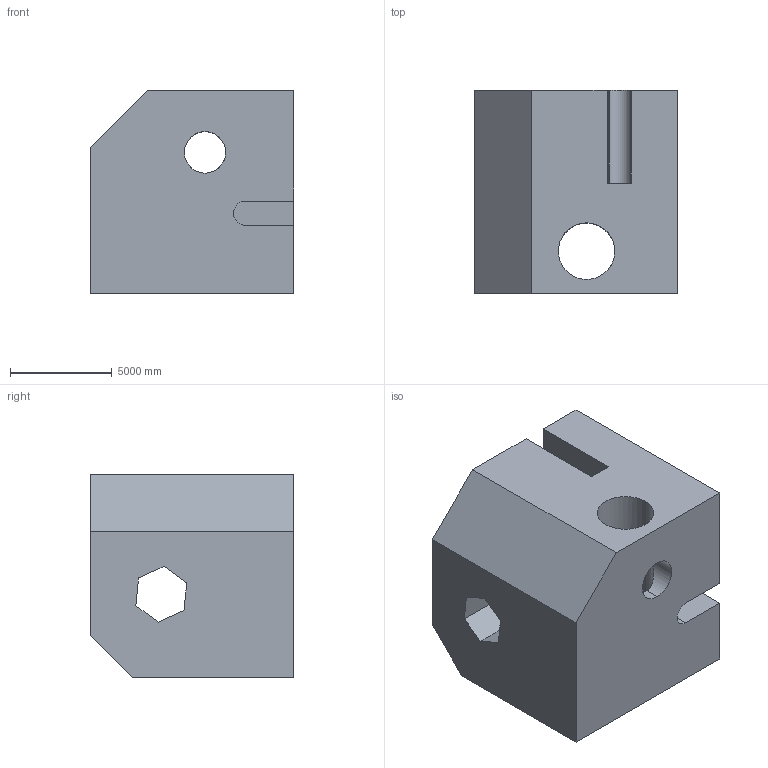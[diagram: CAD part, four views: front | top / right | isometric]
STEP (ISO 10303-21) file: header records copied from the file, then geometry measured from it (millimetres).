
FILE_DESCRIPTION (( 'STEP AP203' ), '1' );
FILE_NAME ('687.STEP', '2022-07-29T12:31:52', ( 'user' ), ( '' ), 'SwSTEP 2.0', 'SolidWorks 2021', '' );
FILE_SCHEMA (( 'CONFIG_CONTROL_DESIGN' ));
Length unit declared in the file: centimetre
Products named in the file (1): 687
Bounding box: 10000 x 10000 x 10000 mm (x, y, z)
Volume: 782301922290.3 mm3; surface area: 776107270.2 mm2
Topology: 1 solids, 1 shells, 29 faces, 84 edges, 56 vertices
Faces by surface type: plane 20, cylinder 9
Entity records: 1674 total; most frequent: CARTESIAN_POINT 805, ORIENTED_EDGE 168, DIRECTION 156, EDGE_CURVE 84, VECTOR 64, LINE 64, VERTEX_POINT 56, AXIS2_PLACEMENT_3D 46
